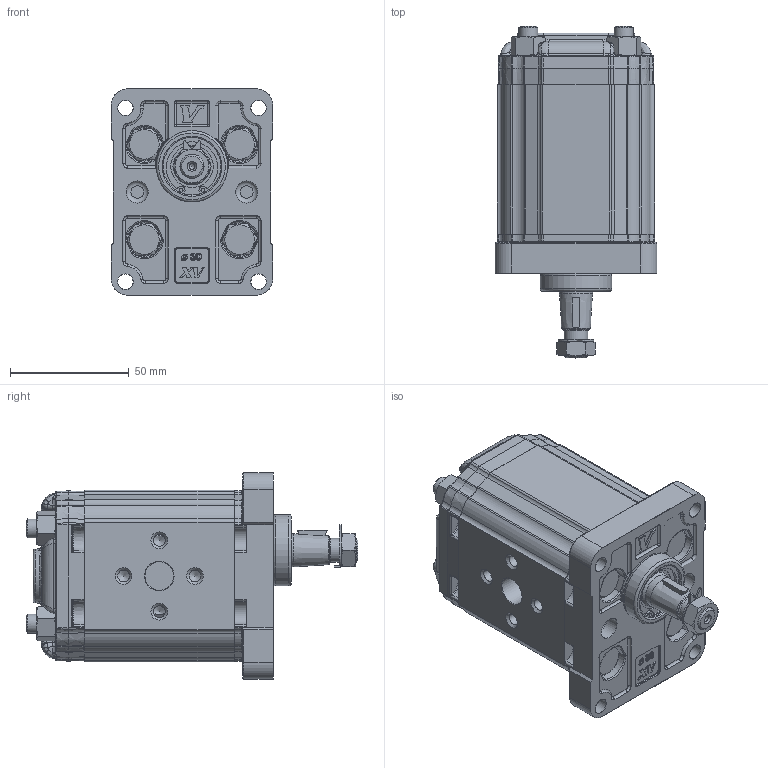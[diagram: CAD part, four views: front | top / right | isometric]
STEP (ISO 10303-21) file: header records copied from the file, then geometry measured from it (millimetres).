
FILE_DESCRIPTION(/* description */ ('Unknown'),/* implementation_level */ '2;1');
FILE_NAME(/* name */ 'X1U3212GIIA',/* time_stamp */ '2026-05-26T18:42:23+02:00',/* author */ ('Unknown'),/* organization */ ('Unknown'),/* preprocessor_version */ 'ST-DEVELOPER v16.7',/* originating_system */ 'Solid Edge',/* authorisation */ 'Unknown');
FILE_SCHEMA (('AUTOMOTIVE_DESIGN {1 0 10303 214 3 1 1}'));
Products named in the file (5): X1U3212GIIA; X1U12; 1G; X1IIH63; XU113-A
Assembly tree (4 placements, depth 2):
  X1U3212GIIA
    X1U12
    1G
    X1IIH63
    XU113-A
Bounding box: 68 x 139.49 x 86.7 mm (x, y, z)
Volume: 409145.3 mm3; surface area: 80641.6 mm2
Topology: 4 solids, 5 shells, 2412 faces, 5824 edges, 3489 vertices
Faces by surface type: cylinder 767, plane 590, bspline 514, torus 268, cone 222, sphere 51
Full cylindrical faces by diameter (mm): 1.678 x2, 2.5 x1, 3 x2, 5 x8, 6.5 x4, 8 x12, 8.5 x6, 9 x2, 9.3 x2, 10 x2, 10.25 x1, 10.5 x2, 12 x6, 13.955 x1, 14 x2, 14.923 x1, 17.115 x1, 17.833 x1, 20 x1, 22 x1, 24 x2, 24.2 x1, 25.5 x1, 30 x1
Entity records: 116656 total; most frequent: CARTESIAN_POINT 46680, ORIENTED_EDGE 11090, DIRECTION 10751, EDGE_CURVE 5545, AXIS2_PLACEMENT_3D 4371, VERTEX_POINT 3400, FACE_BOUND 2747, EDGE_LOOP 2737
